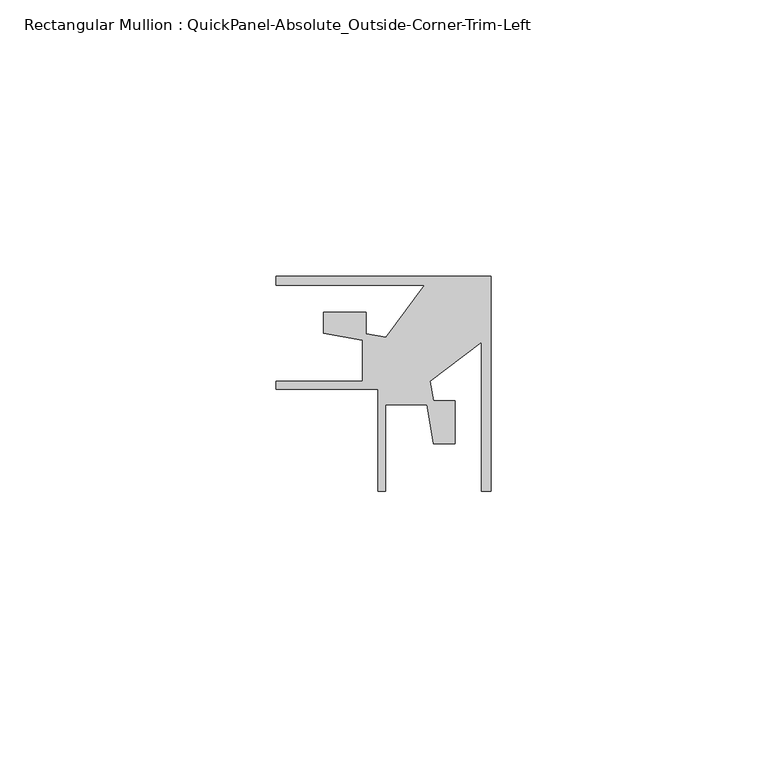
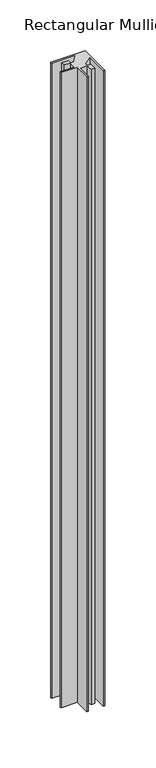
"""IFC4 building model written with IfcOpenShell, lengths in millimetres: member geometry, Rectangular Mullion : QuickPanel-Absolute_Outside-Corner-Trim-Left."""

from ifc_helpers import new_model, si_unit, frame, origin, place, context, project, spatial, polyline, outline, extrude, source, transform, mapped, element, save


def rectangular_mullion_quickpanel_absolute_outside_corner_trim_54773243(model_context):
    return source(origin(), model_context, "Body", "SweptSolid", [
        extrude(outline(polyline([(-11.9918292, 10.4985348), (-38.9299221, 10.4985348), (-38.9299221, 12.1803727), (0.0, 12.1803727), (0.0, -26.7495494), (-1.6818379, -26.7495494), (-1.6818379, 0.1885435), (-11.0274882, -6.8539091), (-10.4155262, -10.423615), (-6.5310693, -10.423615), (-6.5310693, -18.168388), (-10.3763482, -18.168388), (-11.5910049, -11.083034), (-19.0600811, -11.083034), (-19.0600811, -26.7495494), (-20.4601097, -26.7495494), (-20.4601097, -8.279737), (-38.9299221, -8.279737), (-38.9299221, -6.8797084), (-23.2634067, -6.8797084), (-23.2634067, 0.5893678), (-30.3487608, 1.8040245), (-30.3487608, 5.6493034), (-22.6039877, 5.6493034), (-22.6039877, 1.7648465), (-19.0342818, 1.1528845), (-11.9918292, 10.4985348)])), frame((0.0, 0.0, -763.2962426), z_axis=(0.0, 0.0, 1.0), x_axis=(1.0, 0.0, 0.0)), (0.0, 0.0, 1.0), 763.2962426),
    ])


if __name__ == "__main__":
    model = new_model("IFC4")
    model_context = context("Model", 3, world=origin())
    ifc_project = project(units=[si_unit("LENGTHUNIT", "METRE", prefix="MILLI")], contexts=[model_context])
    site = spatial("IfcSite", under=ifc_project)
    building = spatial("IfcBuilding", under=site)
    placement = place(None, origin())
    rectangular_mullion_quickpanel_absolute_outside_corner_trim_shape = rectangular_mullion_quickpanel_absolute_outside_corner_trim_54773243(model_context)
    element("IfcMember", 1, ObjectType="Rectangular Mullion : QuickPanel-Absolute_Outside-Corner-Trim-Left", at=placement, inside=building, context=model_context, shape_type="MappedRepresentation", body=[
        mapped(rectangular_mullion_quickpanel_absolute_outside_corner_trim_shape, transform((0.0, 0.0, 0.0), x_axis=(1.0, 0.0, 0.0), y_axis=(0.0, 1.0, 0.0), z_axis=(0.0, 0.0, 1.0))),
    ])
    save(model, "model.ifc")
